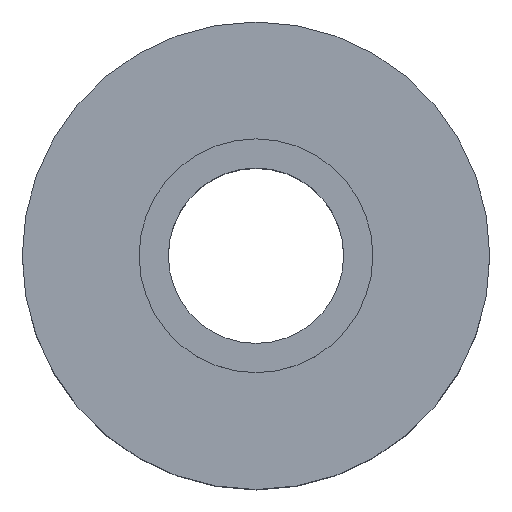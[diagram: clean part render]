
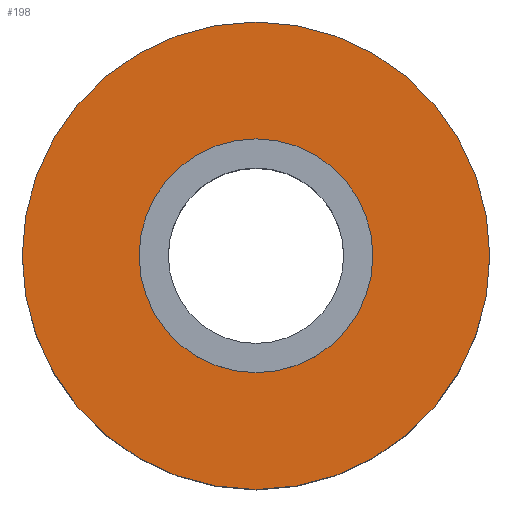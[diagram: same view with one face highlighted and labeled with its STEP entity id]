
A CAD part, top view. The second image highlights one B-rep face of the part: STEP entity #198.
In plain terms, the highlighted planar face has unit normal (0, 0, 1).
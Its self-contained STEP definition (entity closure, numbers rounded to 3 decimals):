
#47=CARTESIAN_POINT('',(0.,0.,0.));
#48=DIRECTION('',(0.,0.,1.));
#49=DIRECTION('',(0.,1.,0.));
#50=AXIS2_PLACEMENT_3D('',#47,#48,#49);
#52=CARTESIAN_POINT('',(0.,0.,0.));
#53=DIRECTION('',(0.,0.,-1.));
#54=DIRECTION('',(0.,1.,0.));
#55=AXIS2_PLACEMENT_3D('',#52,#53,#54);
#57=CARTESIAN_POINT('',(0.,0.,0.));
#58=DIRECTION('',(0.,0.,-1.));
#59=DIRECTION('',(0.,1.,0.));
#60=AXIS2_PLACEMENT_3D('',#57,#58,#59);
#70=CARTESIAN_POINT('',(0.,0.,0.));
#71=DIRECTION('',(0.,0.,1.));
#72=DIRECTION('',(0.,1.,0.));
#73=AXIS2_PLACEMENT_3D('',#70,#71,#72);
#90=CARTESIAN_POINT('',(0.,8.,0.));
#92=VERTEX_POINT('',#90);
#93=CARTESIAN_POINT('',(0.,4.,0.));
#95=VERTEX_POINT('',#93);
#102=CARTESIAN_POINT('',(0.,-8.,0.));
#104=VERTEX_POINT('',#102);
#105=CARTESIAN_POINT('',(0.,-4.,0.));
#107=VERTEX_POINT('',#105);
#183=CARTESIAN_POINT('',(0.,0.,0.));
#184=DIRECTION('',(0.,0.,-1.));
#185=DIRECTION('',(0.,-1.,0.));
#186=AXIS2_PLACEMENT_3D('',#183,#184,#185);
#187=PLANE('',#186);
#188=ORIENTED_EDGE('',*,*,#176,.F.);
#189=ORIENTED_EDGE('',*,*,#165,.T.);
#190=EDGE_LOOP('',(#188,#189));
#191=FACE_OUTER_BOUND('',#190,.F.);
#193=ORIENTED_EDGE('',*,*,#192,.F.);
#195=ORIENTED_EDGE('',*,*,#194,.T.);
#196=EDGE_LOOP('',(#193,#195));
#197=FACE_BOUND('',#196,.F.);
#198=ADVANCED_FACE('',(#191,#197),#187,.F.);
#51=CIRCLE('',#50,8.);
#56=CIRCLE('',#55,8.);
#61=CIRCLE('',#60,4.);
#74=CIRCLE('',#73,4.);
#165=EDGE_CURVE('',#92,#104,#56,.T.);
#176=EDGE_CURVE('',#92,#104,#51,.T.);
#192=EDGE_CURVE('',#95,#107,#61,.T.);
#194=EDGE_CURVE('',#95,#107,#74,.T.);
